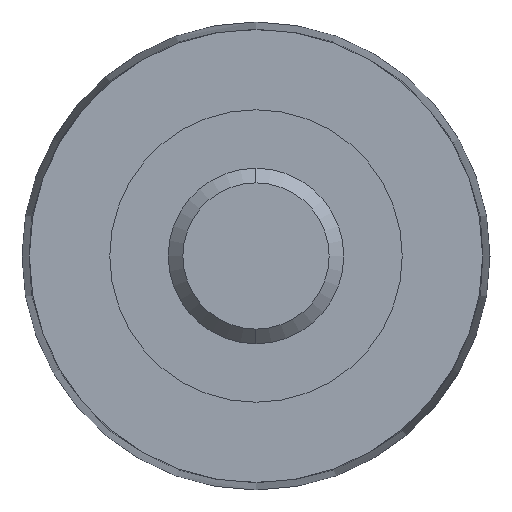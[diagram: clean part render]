
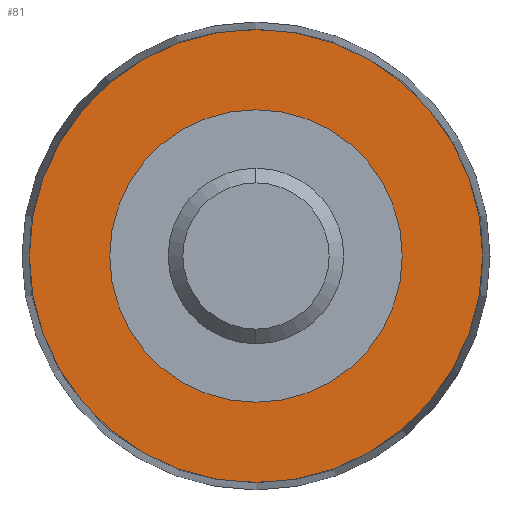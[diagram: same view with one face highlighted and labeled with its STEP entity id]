
A CAD part, left-side view. The second image highlights one B-rep face of the part: STEP entity #81.
In plain terms, the highlighted planar face has unit normal (-1, 0, 0).
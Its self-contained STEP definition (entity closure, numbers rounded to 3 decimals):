
#7 = EDGE_CURVE ( 'NONE', #553, #585, #552, .T. ) ;
#26 = ORIENTED_EDGE ( 'NONE', *, *, #7, .F. ) ;
#34 = EDGE_LOOP ( 'NONE', ( #452, #26 ) ) ;
#49 = CARTESIAN_POINT ( 'NONE',  ( -185., 0., 15.5 ) ) ;
#64 = FACE_BOUND ( 'NONE', #34, .T. ) ;
#67 = DIRECTION ( 'NONE',  ( -1., 0., 0. ) ) ;
#68 = DIRECTION ( 'NONE',  ( 1., 0., 0. ) ) ;
#75 = DIRECTION ( 'NONE',  ( 0., 0., 1. ) ) ;
#81 = ADVANCED_FACE ( 'NONE', ( #64, #648 ), #303, .F. ) ;
#94 = CARTESIAN_POINT ( 'NONE',  ( -185., 0., 0. ) ) ;
#119 = CARTESIAN_POINT ( 'NONE',  ( -185., 0., -15.5 ) ) ;
#125 = CIRCLE ( 'NONE', #392, 10. ) ;
#159 = EDGE_CURVE ( 'NONE', #457, #601, #346, .T. ) ;
#169 = DIRECTION ( 'NONE',  ( 0., 0., -1. ) ) ;
#172 = CARTESIAN_POINT ( 'NONE',  ( -185., 0., 0. ) ) ;
#183 = DIRECTION ( 'NONE',  ( 0., 0., 1. ) ) ;
#208 = AXIS2_PLACEMENT_3D ( 'NONE', #94, #609, #359 ) ;
#214 = EDGE_CURVE ( 'NONE', #585, #553, #125, .T. ) ;
#253 = DIRECTION ( 'NONE',  ( -1., 0., 0. ) ) ;
#256 = CARTESIAN_POINT ( 'NONE',  ( -185., 0., 0. ) ) ;
#258 = CARTESIAN_POINT ( 'NONE',  ( -185., 10., 0. ) ) ;
#265 = CARTESIAN_POINT ( 'NONE',  ( -185., 0., -10. ) ) ;
#270 = ORIENTED_EDGE ( 'NONE', *, *, #159, .T. ) ;
#303 = PLANE ( 'NONE',  #474 ) ;
#308 = EDGE_CURVE ( 'NONE', #601, #457, #405, .T. ) ;
#346 = CIRCLE ( 'NONE', #505, 15.5 ) ;
#359 = DIRECTION ( 'NONE',  ( 0., 0., 1. ) ) ;
#392 = AXIS2_PLACEMENT_3D ( 'NONE', #172, #67, #75 ) ;
#405 = CIRCLE ( 'NONE', #580, 15.5 ) ;
#436 = DIRECTION ( 'NONE',  ( -1., 0., 0. ) ) ;
#452 = ORIENTED_EDGE ( 'NONE', *, *, #214, .F. ) ;
#457 = VERTEX_POINT ( 'NONE', #49 ) ;
#471 = EDGE_LOOP ( 'NONE', ( #636, #270 ) ) ;
#474 = AXIS2_PLACEMENT_3D ( 'NONE', #258, #68, #169 ) ;
#505 = AXIS2_PLACEMENT_3D ( 'NONE', #256, #253, #564 ) ;
#528 = CARTESIAN_POINT ( 'NONE',  ( -185., 0., 10. ) ) ;
#552 = CIRCLE ( 'NONE', #208, 10. ) ;
#553 = VERTEX_POINT ( 'NONE', #265 ) ;
#564 = DIRECTION ( 'NONE',  ( 0., 0., 1. ) ) ;
#580 = AXIS2_PLACEMENT_3D ( 'NONE', #639, #436, #183 ) ;
#585 = VERTEX_POINT ( 'NONE', #528 ) ;
#601 = VERTEX_POINT ( 'NONE', #119 ) ;
#609 = DIRECTION ( 'NONE',  ( -1., 0., 0. ) ) ;
#636 = ORIENTED_EDGE ( 'NONE', *, *, #308, .T. ) ;
#639 = CARTESIAN_POINT ( 'NONE',  ( -185., 0., 0. ) ) ;
#648 = FACE_OUTER_BOUND ( 'NONE', #471, .T. ) ;
